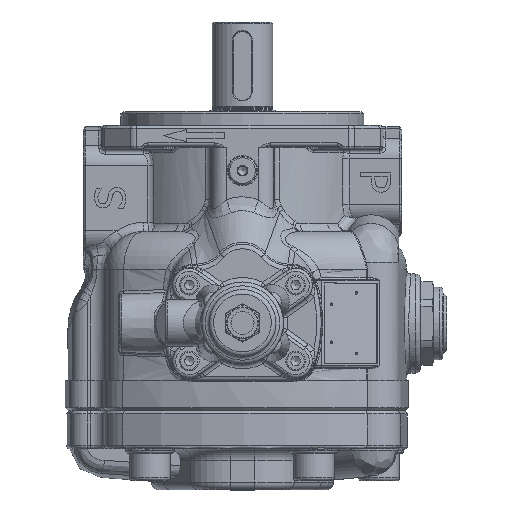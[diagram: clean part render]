
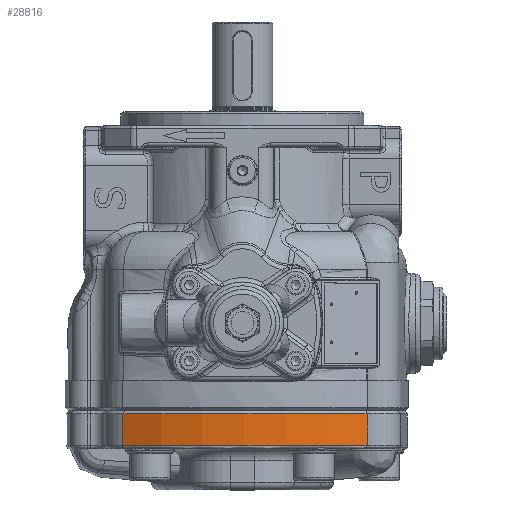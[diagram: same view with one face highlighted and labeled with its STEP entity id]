
A CAD part, top view. The second image highlights one B-rep face of the part: STEP entity #28816.
In plain terms, the highlighted cylindrical face has radius 161 mm (diameter 322 mm), a partial arc.
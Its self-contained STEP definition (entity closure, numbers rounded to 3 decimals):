
#2034=CYLINDRICAL_SURFACE('',#31747,161.);
#3278=LINE('',#61752,#4664);
#3358=LINE('',#62717,#4744);
#4664=VECTOR('',#38168,10.);
#4744=VECTOR('',#38722,10.);
#6872=FACE_OUTER_BOUND('',#8630,.T.);
#8630=EDGE_LOOP('',(#24568,#24569,#24570,#24571));
#10289=CIRCLE('',#31564,161.);
#10404=CIRCLE('',#31748,161.);
#12656=VERTEX_POINT('',#61746);
#12658=VERTEX_POINT('',#61750);
#12670=VERTEX_POINT('',#61788);
#12810=VERTEX_POINT('',#62715);
#16541=EDGE_CURVE('',#12656,#12658,#3278,.T.);
#16592=EDGE_CURVE('',#12670,#12658,#10289,.T.);
#16786=EDGE_CURVE('',#12656,#12810,#10404,.T.);
#16787=EDGE_CURVE('',#12810,#12670,#3358,.T.);
#24568=ORIENTED_EDGE('',*,*,#16786,.F.);
#24569=ORIENTED_EDGE('',*,*,#16541,.T.);
#24570=ORIENTED_EDGE('',*,*,#16592,.F.);
#24571=ORIENTED_EDGE('',*,*,#16787,.F.);
#28816=ADVANCED_FACE('',(#6872),#2034,.T.);
#31564=AXIS2_PLACEMENT_3D('',#61920,#38285,#38286);
#31747=AXIS2_PLACEMENT_3D('',#62714,#38718,#38719);
#31748=AXIS2_PLACEMENT_3D('',#62716,#38720,#38721);
#38168=DIRECTION('',(0.,-1.,0.));
#38285=DIRECTION('center_axis',(0.,-1.,0.));
#38286=DIRECTION('ref_axis',(-0.032,0.,0.999));
#38718=DIRECTION('center_axis',(0.,-1.,0.));
#38719=DIRECTION('ref_axis',(0.527,0.,-0.85));
#38720=DIRECTION('center_axis',(0.,1.,0.));
#38721=DIRECTION('ref_axis',(-0.527,0.,0.85));
#38722=DIRECTION('',(0.,-1.,0.));
#61746=CARTESIAN_POINT('',(-75.133,-98.812,84.937));
#61750=CARTESIAN_POINT('',(-75.133,-119.812,84.937));
#61752=CARTESIAN_POINT('',(-75.133,-96.812,84.937));
#61788=CARTESIAN_POINT('',(85.564,-119.812,90.06));
#61920=CARTESIAN_POINT('Origin',(9.661,-119.812,-51.925));
#62714=CARTESIAN_POINT('Origin',(9.661,-96.812,-51.925));
#62715=CARTESIAN_POINT('',(85.564,-98.812,90.06));
#62716=CARTESIAN_POINT('Origin',(9.661,-98.812,-51.925));
#62717=CARTESIAN_POINT('',(85.564,-96.812,90.06));
